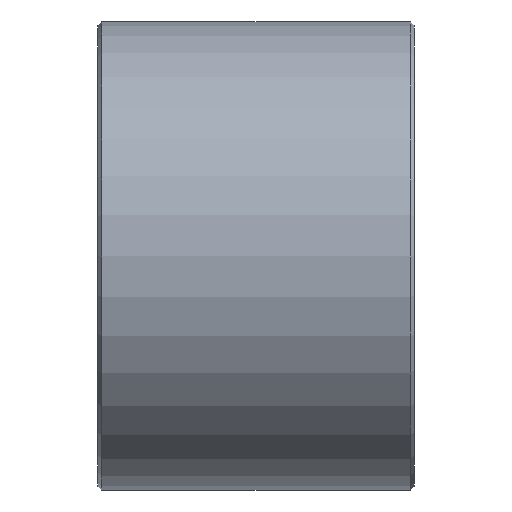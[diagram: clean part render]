
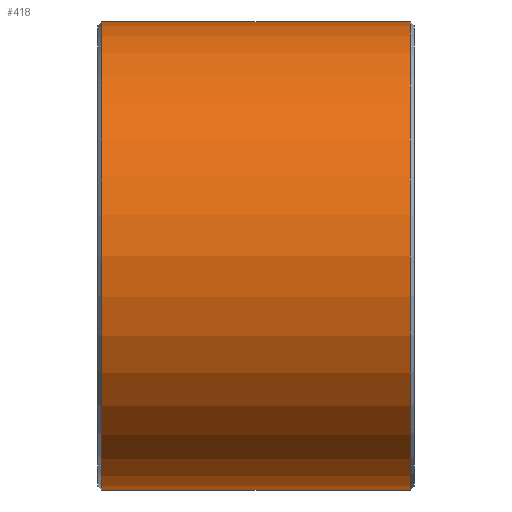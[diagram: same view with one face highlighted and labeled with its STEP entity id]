
A CAD part, front view. The second image highlights one B-rep face of the part: STEP entity #418.
In plain terms, the highlighted cylindrical face has radius 44.4 mm (diameter 88.8 mm), a full revolution.
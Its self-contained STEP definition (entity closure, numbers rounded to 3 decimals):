
#13=B_SPLINE_CURVE_WITH_KNOTS('',3,(#676,#677,#678,#679,#680,#681,#682,
#683,#684,#685,#686,#687,#688,#689,#690,#691,#692,#693,#694,#695,#696,#697),
 .UNSPECIFIED.,.F.,.F.,(4,2,2,2,2,2,2,2,2,2,4),(0.,0.196,0.392,
0.588,0.784,0.98,1.176,
1.372,1.569,1.765,1.95),
 .UNSPECIFIED.);
#14=B_SPLINE_CURVE_WITH_KNOTS('',3,(#698,#699,#700,#701,#702,#703),
 .UNSPECIFIED.,.F.,.F.,(4,2,4),(2.755,2.941,3.137),
 .UNSPECIFIED.);
#15=B_SPLINE_CURVE_WITH_KNOTS('',3,(#715,#716,#717,#718,#719,#720,#721,
#722,#723,#724,#725,#726,#727,#728,#729,#730,#731,#732,#733,#734,#735,#736),
 .UNSPECIFIED.,.F.,.F.,(4,2,2,2,2,2,2,2,2,2,4),(1.187,1.372,
1.569,1.765,1.961,2.157,2.353,
2.549,2.745,2.941,3.137),
 .UNSPECIFIED.);
#16=B_SPLINE_CURVE_WITH_KNOTS('',3,(#737,#738,#739,#740,#741,#742),
 .UNSPECIFIED.,.F.,.F.,(4,2,4),(0.,0.196,0.382),
 .UNSPECIFIED.);
#21=LINE('',#651,#33);
#22=LINE('',#654,#34);
#26=LINE('',#664,#38);
#30=LINE('',#671,#42);
#33=VECTOR('',#518,24.949);
#34=VECTOR('',#521,9.846);
#38=VECTOR('',#531,24.949);
#42=VECTOR('',#537,9.846);
#66=FACE_OUTER_BOUND('',#136,.T.);
#82=CYLINDRICAL_SURFACE('',#462,44.4);
#97=FACE_BOUND('',#137,.T.);
#98=FACE_BOUND('',#138,.T.);
#136=EDGE_LOOP('',(#317));
#137=EDGE_LOOP('',(#318,#319,#320,#321,#322,#323,#324,#325));
#138=EDGE_LOOP('',(#326));
#178=CIRCLE('',#463,44.4);
#179=CIRCLE('',#464,44.4);
#193=VERTEX_POINT('',#620);
#195=VERTEX_POINT('',#625);
#200=VERTEX_POINT('',#649);
#201=VERTEX_POINT('',#653);
#204=VERTEX_POINT('',#663);
#206=VERTEX_POINT('',#669);
#207=VERTEX_POINT('',#675);
#211=VERTEX_POINT('',#712);
#212=VERTEX_POINT('',#714);
#213=VERTEX_POINT('',#743);
#238=EDGE_CURVE('',#193,#200,#21,.T.);
#239=EDGE_CURVE('',#201,#193,#22,.T.);
#244=EDGE_CURVE('',#204,#195,#26,.T.);
#248=EDGE_CURVE('',#195,#206,#30,.T.);
#250=EDGE_CURVE('',#207,#204,#13,.T.);
#251=EDGE_CURVE('',#200,#207,#14,.T.);
#255=EDGE_CURVE('',#211,#211,#178,.T.);
#256=EDGE_CURVE('',#206,#212,#15,.T.);
#257=EDGE_CURVE('',#212,#201,#16,.T.);
#258=EDGE_CURVE('',#213,#213,#179,.T.);
#317=ORIENTED_EDGE('',*,*,#255,.T.);
#318=ORIENTED_EDGE('',*,*,#238,.T.);
#319=ORIENTED_EDGE('',*,*,#251,.T.);
#320=ORIENTED_EDGE('',*,*,#250,.T.);
#321=ORIENTED_EDGE('',*,*,#244,.T.);
#322=ORIENTED_EDGE('',*,*,#248,.T.);
#323=ORIENTED_EDGE('',*,*,#256,.T.);
#324=ORIENTED_EDGE('',*,*,#257,.T.);
#325=ORIENTED_EDGE('',*,*,#239,.T.);
#326=ORIENTED_EDGE('',*,*,#258,.F.);
#418=ADVANCED_FACE('',(#66,#97,#98),#82,.T.);
#462=AXIS2_PLACEMENT_3D('',#711,#552,#553);
#463=AXIS2_PLACEMENT_3D('',#713,#554,#555);
#464=AXIS2_PLACEMENT_3D('',#744,#556,#557);
#518=DIRECTION('',(1.,0.,0.));
#521=DIRECTION('',(1.,0.,0.));
#531=DIRECTION('',(-1.,0.,0.));
#537=DIRECTION('',(-1.,0.,0.));
#552=DIRECTION('center_axis',(1.,0.,0.));
#553=DIRECTION('ref_axis',(0.,1.,0.));
#554=DIRECTION('center_axis',(1.,0.,0.));
#555=DIRECTION('ref_axis',(0.,1.,0.));
#556=DIRECTION('center_axis',(1.,0.,0.));
#557=DIRECTION('ref_axis',(0.,1.,0.));
#620=CARTESIAN_POINT('',(-7.552,44.241,-3.75));
#625=CARTESIAN_POINT('',(-7.552,44.241,3.75));
#649=CARTESIAN_POINT('',(17.398,44.241,-3.75));
#651=CARTESIAN_POINT('',(0.,44.241,-3.75));
#653=CARTESIAN_POINT('',(-17.398,44.241,-3.75));
#654=CARTESIAN_POINT('',(0.,44.241,-3.75));
#663=CARTESIAN_POINT('',(17.398,44.241,3.75));
#664=CARTESIAN_POINT('',(0.,44.241,3.75));
#669=CARTESIAN_POINT('',(-17.398,44.241,3.75));
#671=CARTESIAN_POINT('',(0.,44.241,3.75));
#675=CARTESIAN_POINT('',(21.,44.094,-5.2));
#676=CARTESIAN_POINT('Ctrl Pts',(21.,44.094,-5.2));
#677=CARTESIAN_POINT('Ctrl Pts',(21.654,44.094,-5.2));
#678=CARTESIAN_POINT('Ctrl Pts',(22.35,44.11,-5.069));
#679=CARTESIAN_POINT('Ctrl Pts',(23.631,44.168,-4.538));
#680=CARTESIAN_POINT('Ctrl Pts',(24.216,44.209,-4.138));
#681=CARTESIAN_POINT('Ctrl Pts',(25.138,44.286,-3.216));
#682=CARTESIAN_POINT('Ctrl Pts',(25.538,44.327,-2.631));
#683=CARTESIAN_POINT('Ctrl Pts',(26.069,44.384,-1.35));
#684=CARTESIAN_POINT('Ctrl Pts',(26.2,44.4,-0.654));
#685=CARTESIAN_POINT('Ctrl Pts',(26.2,44.4,0.654));
#686=CARTESIAN_POINT('Ctrl Pts',(26.069,44.384,1.35));
#687=CARTESIAN_POINT('Ctrl Pts',(25.538,44.327,2.631));
#688=CARTESIAN_POINT('Ctrl Pts',(25.138,44.286,3.216));
#689=CARTESIAN_POINT('Ctrl Pts',(24.216,44.209,4.138));
#690=CARTESIAN_POINT('Ctrl Pts',(23.631,44.168,4.538));
#691=CARTESIAN_POINT('Ctrl Pts',(22.35,44.11,5.069));
#692=CARTESIAN_POINT('Ctrl Pts',(21.654,44.094,5.2));
#693=CARTESIAN_POINT('Ctrl Pts',(20.346,44.094,5.2));
#694=CARTESIAN_POINT('Ctrl Pts',(19.65,44.11,5.069));
#695=CARTESIAN_POINT('Ctrl Pts',(18.403,44.167,4.552));
#696=CARTESIAN_POINT('Ctrl Pts',(17.846,44.205,4.181));
#697=CARTESIAN_POINT('Ctrl Pts',(17.398,44.241,3.75));
#698=CARTESIAN_POINT('Ctrl Pts',(17.398,44.241,-3.75));
#699=CARTESIAN_POINT('Ctrl Pts',(17.846,44.205,-4.181));
#700=CARTESIAN_POINT('Ctrl Pts',(18.403,44.167,-4.552));
#701=CARTESIAN_POINT('Ctrl Pts',(19.65,44.11,-5.069));
#702=CARTESIAN_POINT('Ctrl Pts',(20.346,44.094,-5.2));
#703=CARTESIAN_POINT('Ctrl Pts',(21.,44.094,-5.2));
#711=CARTESIAN_POINT('Origin',(0.,0.,0.));
#712=CARTESIAN_POINT('',(-29.293,44.4,0.));
#713=CARTESIAN_POINT('Origin',(-29.293,0.,0.));
#714=CARTESIAN_POINT('',(-21.,44.094,-5.2));
#715=CARTESIAN_POINT('Ctrl Pts',(-17.398,44.241,3.75));
#716=CARTESIAN_POINT('Ctrl Pts',(-17.846,44.205,4.181));
#717=CARTESIAN_POINT('Ctrl Pts',(-18.403,44.167,4.552));
#718=CARTESIAN_POINT('Ctrl Pts',(-19.65,44.11,5.069));
#719=CARTESIAN_POINT('Ctrl Pts',(-20.346,44.094,5.2));
#720=CARTESIAN_POINT('Ctrl Pts',(-21.654,44.094,5.2));
#721=CARTESIAN_POINT('Ctrl Pts',(-22.35,44.11,5.069));
#722=CARTESIAN_POINT('Ctrl Pts',(-23.631,44.168,4.538));
#723=CARTESIAN_POINT('Ctrl Pts',(-24.216,44.209,4.138));
#724=CARTESIAN_POINT('Ctrl Pts',(-25.138,44.286,3.216));
#725=CARTESIAN_POINT('Ctrl Pts',(-25.538,44.327,2.631));
#726=CARTESIAN_POINT('Ctrl Pts',(-26.069,44.384,1.35));
#727=CARTESIAN_POINT('Ctrl Pts',(-26.2,44.4,0.654));
#728=CARTESIAN_POINT('Ctrl Pts',(-26.2,44.4,-0.654));
#729=CARTESIAN_POINT('Ctrl Pts',(-26.069,44.384,-1.35));
#730=CARTESIAN_POINT('Ctrl Pts',(-25.538,44.327,-2.631));
#731=CARTESIAN_POINT('Ctrl Pts',(-25.138,44.286,-3.216));
#732=CARTESIAN_POINT('Ctrl Pts',(-24.216,44.209,-4.138));
#733=CARTESIAN_POINT('Ctrl Pts',(-23.631,44.168,-4.538));
#734=CARTESIAN_POINT('Ctrl Pts',(-22.35,44.11,-5.069));
#735=CARTESIAN_POINT('Ctrl Pts',(-21.654,44.094,-5.2));
#736=CARTESIAN_POINT('Ctrl Pts',(-21.,44.094,-5.2));
#737=CARTESIAN_POINT('Ctrl Pts',(-21.,44.094,-5.2));
#738=CARTESIAN_POINT('Ctrl Pts',(-20.346,44.094,-5.2));
#739=CARTESIAN_POINT('Ctrl Pts',(-19.65,44.11,-5.069));
#740=CARTESIAN_POINT('Ctrl Pts',(-18.403,44.167,-4.552));
#741=CARTESIAN_POINT('Ctrl Pts',(-17.846,44.205,-4.181));
#742=CARTESIAN_POINT('Ctrl Pts',(-17.398,44.241,-3.75));
#743=CARTESIAN_POINT('',(29.293,44.4,0.));
#744=CARTESIAN_POINT('Origin',(29.293,0.,0.));
